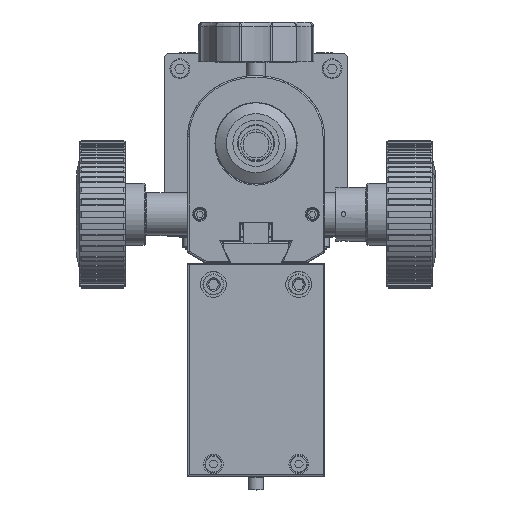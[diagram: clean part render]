
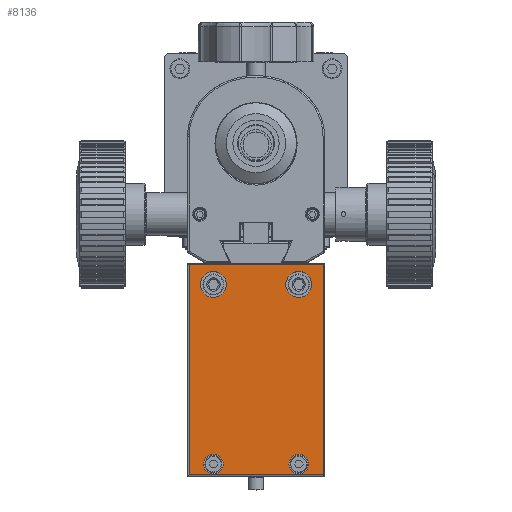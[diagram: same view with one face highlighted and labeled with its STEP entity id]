
A CAD part, top view. The second image highlights one B-rep face of the part: STEP entity #8136.
In plain terms, the highlighted planar face has unit normal (0, 0, 1).
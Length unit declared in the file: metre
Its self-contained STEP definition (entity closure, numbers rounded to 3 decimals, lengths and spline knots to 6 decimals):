
#8136=ADVANCED_FACE('0:9597',(#20135,#20136,#20137,#20138,#20139),#20140,.T.);
#9958=EDGE_CURVE('0:13283',#22959,#22962,#22963,.T.);
#9992=EDGE_CURVE('0:13232',#23010,#23013,#23014,.T.);
#11840=EDGE_CURVE('0:13307',#25594,#25594,#25595,.T.);
#11888=EDGE_CURVE('0:13301',#25659,#25659,#25660,.T.);
#13898=EDGE_CURVE('0:13211',#23013,#22959,#28268,.T.);
#13900=EDGE_CURVE('0:13259',#22962,#23010,#28270,.T.);
#13902=EDGE_CURVE('0:13313',#28272,#28272,#28273,.T.);
#13904=EDGE_CURVE('0:13319',#28275,#28275,#28276,.T.);
#20135=FACE_OUTER_BOUND('',#70537,.T.);
#20136=FACE_BOUND('',#70538,.T.);
#20137=FACE_BOUND('',#70539,.T.);
#20138=FACE_BOUND('',#70540,.T.);
#20139=FACE_BOUND('',#70541,.T.);
#20140=PLANE('',#70542);
#22959=VERTEX_POINT('',#85016);
#22962=VERTEX_POINT('',#85020);
#22963=LINE('',#85021,#85022);
#23010=VERTEX_POINT('',#85092);
#23013=VERTEX_POINT('',#85096);
#23014=LINE('',#85097,#85098);
#25594=VERTEX_POINT('',#90749);
#25595=CIRCLE('',#90750,0.00425);
#25659=VERTEX_POINT('',#90857);
#25660=CIRCLE('',#90858,0.00425);
#28268=LINE('',#95933,#95934);
#28270=LINE('',#95937,#95938);
#28272=VERTEX_POINT('',#95941);
#28273=CIRCLE('',#95942,0.0032);
#28275=VERTEX_POINT('',#95945);
#28276=CIRCLE('',#95946,0.0032);
#70537=EDGE_LOOP('',(#111755,#111756,#111757,#111758));
#70538=EDGE_LOOP('',(#111759));
#70539=EDGE_LOOP('',(#111760));
#70540=EDGE_LOOP('',(#111761));
#70541=EDGE_LOOP('',(#111762));
#70542=AXIS2_PLACEMENT_3D('',#111763,#111764,#111765);
#85016=CARTESIAN_POINT('',(0.02069,-0.006226,0.265215));
#85020=CARTESIAN_POINT('',(-0.02331,-0.006226,0.265215));
#85021=CARTESIAN_POINT('',(-0.026665,-0.006226,0.265215));
#85022=VECTOR('',#117987,1.0);
#85092=CARTESIAN_POINT('',(-0.02331,0.062774,0.265215));
#85096=CARTESIAN_POINT('',(0.02069,0.062774,0.265215));
#85097=CARTESIAN_POINT('',(-0.026665,0.062774,0.265215));
#85098=VECTOR('',#118022,1.0);
#90749=CARTESIAN_POINT('',(0.00844,0.056274,0.265215));
#90750=AXIS2_PLACEMENT_3D('',#119383,#119384,#119385);
#90857=CARTESIAN_POINT('',(-0.01956,0.056274,0.265215));
#90858=AXIS2_PLACEMENT_3D('',#119417,#119418,#119419);
#95933=CARTESIAN_POINT('',(0.02069,0.013774,0.265215));
#95934=VECTOR('',#120864,1.0);
#95937=CARTESIAN_POINT('',(-0.02331,0.013774,0.265215));
#95938=VECTOR('',#120865,1.0);
#95941=CARTESIAN_POINT('',(-0.01851,-0.002726,0.265215));
#95942=AXIS2_PLACEMENT_3D('',#120866,#120867,#120868);
#95945=CARTESIAN_POINT('',(0.00949,-0.002726,0.265215));
#95946=AXIS2_PLACEMENT_3D('',#120869,#120870,#120871);
#111755=ORIENTED_EDGE('',*,*,#13898,.F.);
#111756=ORIENTED_EDGE('',*,*,#9992,.F.);
#111757=ORIENTED_EDGE('',*,*,#13900,.F.);
#111758=ORIENTED_EDGE('',*,*,#9958,.F.);
#111759=ORIENTED_EDGE('',*,*,#11888,.F.);
#111760=ORIENTED_EDGE('',*,*,#11840,.F.);
#111761=ORIENTED_EDGE('',*,*,#13902,.F.);
#111762=ORIENTED_EDGE('',*,*,#13904,.F.);
#111763=CARTESIAN_POINT('',(-0.05202,-0.000726,0.265215));
#111764=DIRECTION('',(0.0,0.,1.0));
#111765=DIRECTION('',(0.0,-1.0,0.));
#117987=DIRECTION('',(-1.0,0.,0.));
#118022=DIRECTION('',(1.0,0.,0.));
#119383=CARTESIAN_POINT('',(0.01269,0.056274,0.265215));
#119384=DIRECTION('',(0.,0.,1.0));
#119385=DIRECTION('',(-1.0,0.,0.));
#119417=CARTESIAN_POINT('',(-0.01531,0.056274,0.265215));
#119418=DIRECTION('',(0.,0.,1.0));
#119419=DIRECTION('',(-1.0,0.,0.));
#120864=DIRECTION('',(0.,-1.0,0.));
#120865=DIRECTION('',(0.,1.0,0.));
#120866=CARTESIAN_POINT('',(-0.01531,-0.002726,0.265215));
#120867=DIRECTION('',(0.,0.,1.0));
#120868=DIRECTION('',(-1.0,0.,0.));
#120869=CARTESIAN_POINT('',(0.01269,-0.002726,0.265215));
#120870=DIRECTION('',(0.,0.,1.0));
#120871=DIRECTION('',(-1.0,0.,0.));
